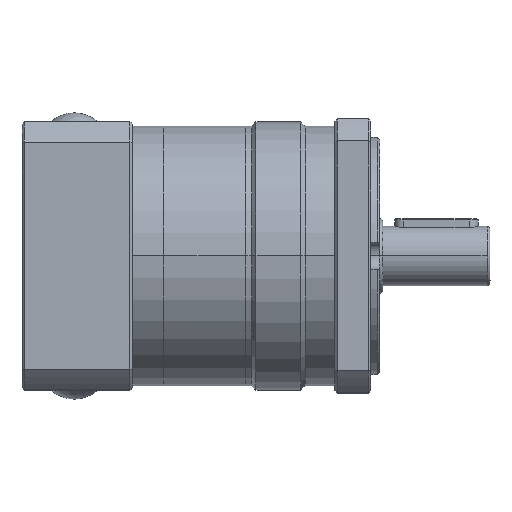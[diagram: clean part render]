
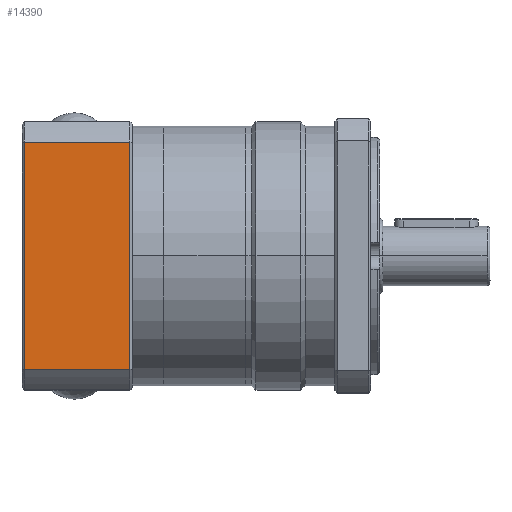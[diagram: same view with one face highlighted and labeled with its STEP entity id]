
A CAD part, top view. The second image highlights one B-rep face of the part: STEP entity #14390.
In plain terms, the highlighted planar face has unit normal (0, 0, 1) as drawn and (1, 0, 0) by its records, which use the part's own axes.
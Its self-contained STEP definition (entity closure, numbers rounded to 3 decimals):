
#330 = CARTESIAN_POINT ( 'NONE',  ( 45., 38.158, 46.7 ) ) ;
#988 = VERTEX_POINT ( 'NONE', #9542 ) ;
#1161 = CARTESIAN_POINT ( 'NONE',  ( 45., -38.158, 0. ) ) ;
#1398 = VERTEX_POINT ( 'NONE', #11277 ) ;
#1808 = ORIENTED_EDGE ( 'NONE', *, *, #15244, .F. ) ;
#2625 = ORIENTED_EDGE ( 'NONE', *, *, #4152, .F. ) ;
#2727 = CARTESIAN_POINT ( 'NONE',  ( 45., 38.158, 0. ) ) ;
#2939 = CARTESIAN_POINT ( 'NONE',  ( 45., 0., 11.3 ) ) ;
#3014 = EDGE_CURVE ( 'NONE', #1398, #14080, #15612, .T. ) ;
#3273 = ORIENTED_EDGE ( 'NONE', *, *, #8148, .F. ) ;
#3439 = VECTOR ( 'NONE', #14849, 1000. ) ;
#3539 = DIRECTION ( 'NONE',  ( 0., 1., 0. ) ) ;
#4152 = EDGE_CURVE ( 'NONE', #988, #12935, #6336, .T. ) ;
#4633 = FACE_OUTER_BOUND ( 'NONE', #7283, .T. ) ;
#5258 = DIRECTION ( 'NONE',  ( -1., 0., 0. ) ) ;
#6336 = LINE ( 'NONE', #15488, #7858 ) ;
#6445 = DIRECTION ( 'NONE',  ( 0., 0., 1. ) ) ;
#6467 = VECTOR ( 'NONE', #9657, 1000. ) ;
#6552 = CARTESIAN_POINT ( 'NONE',  ( 45., -45., 47.5 ) ) ;
#6564 = CARTESIAN_POINT ( 'NONE',  ( 45., -38.158, 11.3 ) ) ;
#6822 = LINE ( 'NONE', #2727, #3439 ) ;
#6842 = LINE ( 'NONE', #1161, #6467 ) ;
#7283 = EDGE_LOOP ( 'NONE', ( #3273, #2625, #1808, #15580 ) ) ;
#7858 = VECTOR ( 'NONE', #3539, 1000. ) ;
#8148 = EDGE_CURVE ( 'NONE', #12935, #1398, #6822, .T. ) ;
#8523 = AXIS2_PLACEMENT_3D ( 'NONE', #6552, #5258, #6445 ) ;
#9542 = CARTESIAN_POINT ( 'NONE',  ( 45., -38.158, 46.7 ) ) ;
#9657 = DIRECTION ( 'NONE',  ( 0., 0., 1. ) ) ;
#10229 = PLANE ( 'NONE',  #8523 ) ;
#11277 = CARTESIAN_POINT ( 'NONE',  ( 45., 38.158, 11.3 ) ) ;
#12022 = VECTOR ( 'NONE', #15047, 1000. ) ;
#12935 = VERTEX_POINT ( 'NONE', #330 ) ;
#14080 = VERTEX_POINT ( 'NONE', #6564 ) ;
#14390 = ADVANCED_FACE ( 'NONE', ( #4633 ), #10229, .F. ) ;
#14849 = DIRECTION ( 'NONE',  ( 0., 0., -1. ) ) ;
#15047 = DIRECTION ( 'NONE',  ( 0., -1., 0. ) ) ;
#15244 = EDGE_CURVE ( 'NONE', #14080, #988, #6842, .T. ) ;
#15488 = CARTESIAN_POINT ( 'NONE',  ( 45., -45., 46.7 ) ) ;
#15580 = ORIENTED_EDGE ( 'NONE', *, *, #3014, .F. ) ;
#15612 = LINE ( 'NONE', #2939, #12022 ) ;
